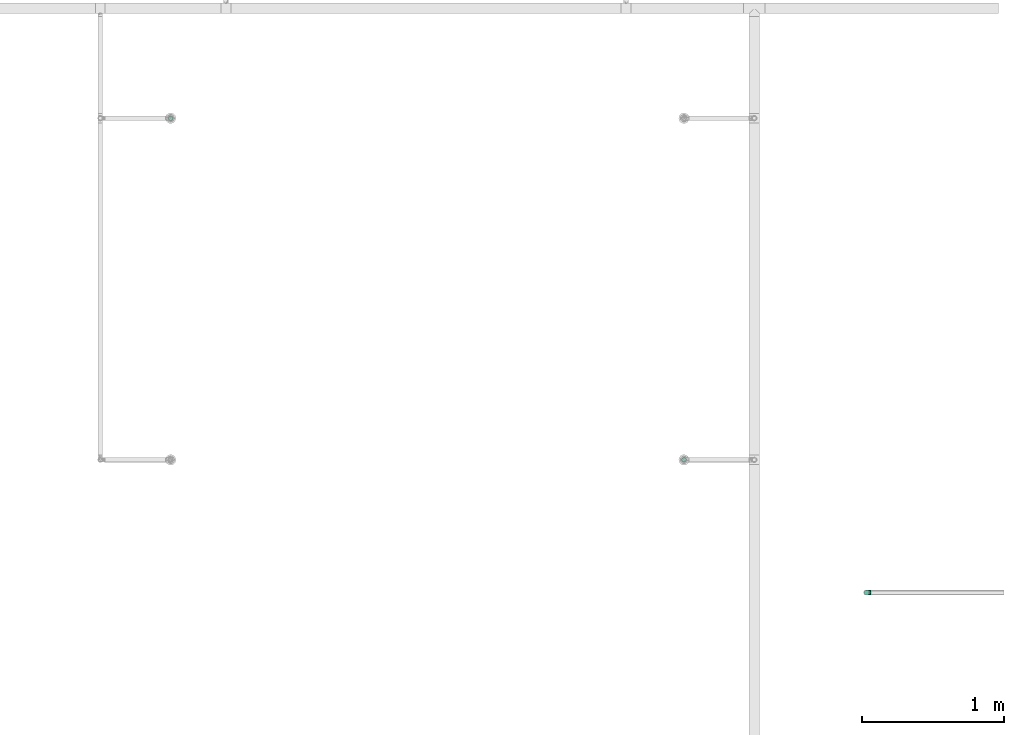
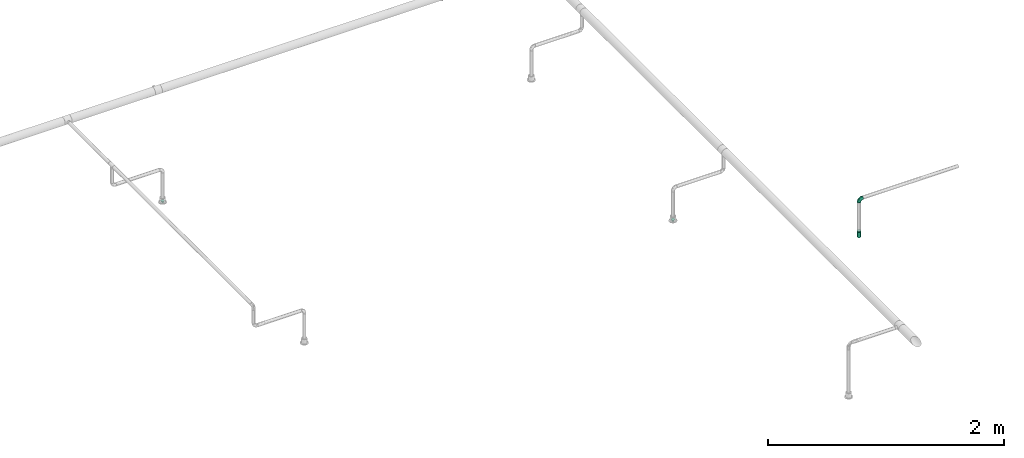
# One storey, part 79 of 95: 4 flow fittings, 1 flow terminal.
"""IFC2X3 building model written with IfcOpenShell, lengths in millimetres."""

from ifc_helpers import new_model, entity, si_unit, converted_unit, derived_unit, direction, frame, origin_with_axes, place, context, subcontext, project, spatial, open_shell, surface_model, source, transform, mapped, type_object, element, save


model = new_model("IFC2X3")

# Units and contexts
model_context = context("Model", 3, precision=0.01, world=frame((0.0, 4.29681676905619e-09, 0.0)), true_north=direction((4.01073788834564e-13, 1.0)))
plan_context = context("Plan", 3, precision=0.01, world=frame((0.0, 4.29681676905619e-09, 0.0)), true_north=direction((4.01073788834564e-13, 1.0)))
body_context = subcontext(model_context, "Body", "Model", "MODEL_VIEW")
ifc_project = project(units=[converted_unit("PLANEANGLEUNIT", "DEGREE", entity("IfcPositiveLengthMeasure", 0.0174532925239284), si_unit("PLANEANGLEUNIT", "RADIAN"), dimensions=[0, 0, 0, 0, 0, 0, 0]), si_unit("AREAUNIT", "SQUARE_METRE"), si_unit("LENGTHUNIT", "METRE", prefix="MILLI"), si_unit("MASSUNIT", "GRAM", prefix="KILO"), si_unit("POWERUNIT", "WATT"), si_unit("PRESSUREUNIT", "PASCAL"), si_unit("FORCEUNIT", "NEWTON", prefix="KILO"), si_unit("ELECTRICVOLTAGEUNIT", "VOLT"), si_unit("ELECTRICCURRENTUNIT", "AMPERE"), si_unit("THERMODYNAMICTEMPERATUREUNIT", "DEGREE_CELSIUS"), si_unit("TIMEUNIT", "SECOND"), si_unit("VOLUMEUNIT", "CUBIC_METRE"), derived_unit("LINEARVELOCITYUNIT", [(si_unit("LENGTHUNIT", "METRE"), 1), (si_unit("TIMEUNIT", "SECOND"), -1)]), derived_unit("VOLUMETRICFLOWRATEUNIT", [(si_unit("VOLUMEUNIT", "CUBIC_METRE"), 1), (si_unit("TIMEUNIT", "SECOND"), -1)]), derived_unit("THERMALTRANSMITTANCEUNIT", [(si_unit("POWERUNIT", "WATT"), 1), (si_unit("THERMODYNAMICTEMPERATUREUNIT", "KELVIN"), -1), (si_unit("AREAUNIT", "SQUARE_METRE"), -1)]), derived_unit("SOUNDPRESSUREUNIT", [(si_unit("PRESSUREUNIT", "PASCAL"), 1)])], contexts=[model_context, plan_context])

# Site, building, storey
site_placement = place(None, frame((0.0, -4.29681676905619e-09, 0.0), z_axis=(0.0, 0.0, 1.0), x_axis=(1.0, 0.0, 0.0)))
site = spatial("IfcSite", under=ifc_project, at=site_placement, CompositionType="ELEMENT")
building_placement = place(site_placement, frame((0.0, 4.29681676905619e-09, 0.0), z_axis=(0.0, 0.0, 1.0), x_axis=(1.0, 0.0, 0.0)))
building = spatial("IfcBuilding", under=site, at=building_placement, Name="mc-building", CompositionType="ELEMENT")
storey_placement = place(building_placement, frame((0.0, 0.0, 210900.0), z_axis=(0.0, 0.0, 1.0), x_axis=(1.0, 0.0, 0.0)))
storey = spatial("IfcBuildingStorey", under=building, at=storey_placement, Name="Nivå F", CompositionType="ELEMENT", Elevation=210900.0)

# Flow fittings
pipe_fitting_type_1 = type_object("IfcPipeFittingType", Name="magi_pipe_fe_reducer_centric_short_NOR", PredefinedType="TRANSITION")
shared_shape_1 = source(origin_with_axes(), body_context, "Body", "SurfaceModel", [
    surface_model("IfcShellBasedSurfaceModel", [(14.4, 5.35, -9.26647), (14.4, 0.0, -10.7), (14.4, 2.76936, -10.33541), (14.4, 10.33541, -2.76936), (14.4, 7.56604, -7.56604), (14.4, -10.33541, -2.76936), (14.4, 9.26647, -5.35), (14.4, 0.0, 10.7), (14.4, -5.35, -9.26647), (14.4, -2.76936, -10.33541), (14.4, -7.56604, -7.56604), (14.4, -9.26647, -5.35), (14.4, 10.7, 0.0), (14.4, 10.33541, 2.76936), (14.4, 9.26647, 5.35), (14.4, 7.56604, 7.56604), (14.4, 2.76936, 10.33541), (14.4, 5.35, 9.26647), (14.4, -10.33541, 2.76936), (14.4, -7.56604, 7.56604), (14.4, -9.26647, 5.35), (14.4, -10.7, 0.0), (14.4, -2.76936, 10.33541), (14.4, -5.35, 9.26647), (12.4, 2.76936, 10.33541), (12.4, -10.33541, -2.76936), (12.4, 0.0, 10.7), (12.4, 5.35, 9.26647), (12.4, 7.56604, 7.56604), (12.4, 9.26647, 5.35), (12.4, 10.33541, 2.76936), (12.4, -10.33541, 2.76936), (12.4, -2.76936, 10.33541), (12.4, -7.56604, 7.56604), (12.4, -5.35, 9.26647), (12.4, -9.26647, 5.35), (12.4, -10.7, 0.0), (12.4, 10.33541, -2.76936), (12.4, 5.35, -9.26647), (12.4, 9.26647, -5.35), (12.4, 7.56604, -7.56604), (12.4, 2.76936, -10.33541), (12.4, -9.26647, -5.35), (12.4, -5.35, -9.26647), (12.4, -7.56604, -7.56604), (12.4, 0.0, -10.7), (12.4, -2.76936, -10.33541), (12.4, 10.7, 0.0), (-2.0, 11.9501, 11.9501), (-2.0, 0.0, 16.9), (-2.0, 4.37404, 16.32415), (-2.0, 8.45, 14.63583), (-2.0, 14.63583, 8.45), (-2.0, 16.32415, 4.37404), (-2.0, -16.32415, 4.37404), (-2.0, -8.45, 14.63583), (-2.0, -14.63583, 8.45), (-2.0, -11.9501, 11.9501), (-2.0, -4.37404, 16.32415), (-2.0, -16.32415, -4.37404), (-2.0, -16.9, 0.0), (-2.0, -8.45, -14.63583), (-2.0, 16.32415, -4.37404), (-2.0, 11.9501, -11.9501), (-2.0, 14.63583, -8.45), (-2.0, 8.45, -14.63583), (-2.0, 4.37404, -16.32415), (-2.0, 0.0, -16.9), (-2.0, -11.9501, -11.9501), (-2.0, -14.63583, -8.45), (-2.0, -4.37404, -16.32415), (-2.0, 16.9, 0.0), (0.0, 4.37404, -16.32415), (0.0, 8.45, -14.63583), (0.0, 11.9501, -11.9501), (0.0, 0.0, -16.9), (0.0, 16.32415, -4.37404), (0.0, 16.32415, 4.37404), (0.0, 14.63583, -8.45), (0.0, -8.45, -14.63583), (0.0, -4.37404, -16.32415), (0.0, -11.9501, -11.9501), (0.0, -16.32415, -4.37404), (0.0, -14.63583, -8.45), (0.0, -16.32415, 4.37404), (0.0, 16.9, 0.0), (0.0, 14.63583, 8.45), (0.0, 11.9501, 11.9501), (0.0, 4.37404, 16.32415), (0.0, 8.45, 14.63583), (0.0, 0.0, 16.9), (0.0, -14.63583, 8.45), (0.0, -16.9, 0.0), (0.0, -8.45, 14.63583), (0.0, -11.9501, 11.9501), (0.0, -4.37404, 16.32415), (12.4, 9.3625, -2.31662), (0.0, 14.42505, -5.97505), (0.0, 15.66253, -2.98753), (12.4, -6.6875, -6.94985), (0.0, -13.18758, -8.96258), (0.0, 2.98753, -15.66253), (12.4, 0.0, -9.26647), (12.4, 6.6875, -6.94985), (0.0, 8.96258, -13.18758), (12.4, -9.3625, -2.31662), (0.0, -15.66253, -2.98753), (0.0, -14.42505, -5.97505), (0.0, 5.97505, -14.42505), (0.0, -2.98753, -15.66253), (0.0, -8.96258, -13.18758), (0.0, 13.18758, -8.96258), (12.4, 8.025, -4.63324), (12.4, -2.675, -9.26647), (12.4, 2.675, -9.26647), (0.0, -5.97505, -14.42505), (12.4, -8.025, -4.63324), (12.4, -9.3625, 2.31662), (0.0, -14.42505, 5.97505), (0.0, -15.66253, 2.98753), (12.4, 6.6875, 6.94985), (0.0, 13.18758, 8.96258), (0.0, -2.98753, 15.66253), (12.4, 0.0, 9.26647), (12.4, -6.6875, 6.94985), (0.0, -8.96258, 13.18758), (12.4, 9.3625, 2.31662), (0.0, 15.66253, 2.98753), (0.0, 14.42505, 5.97505), (0.0, -5.97505, 14.42505), (0.0, 2.98753, 15.66253), (0.0, 8.96258, 13.18758), (0.0, -13.18758, 8.96258), (12.4, -8.025, 4.63324), (12.4, 2.675, 9.26647), (12.4, -2.675, 9.26647), (0.0, 5.97505, 14.42505), (12.4, 8.025, 4.63324)], [open_shell([[[0, 1, 2]], [[3, 0, 4]], [[5, 0, 3]], [[3, 4, 6]], [[7, 5, 3]], [[1, 8, 9]], [[1, 0, 8]], [[10, 5, 11]], [[5, 10, 8]], [[0, 5, 8]], [[3, 12, 13]], [[13, 14, 15]], [[13, 15, 16]], [[7, 3, 16]], [[16, 15, 17]], [[7, 18, 5]], [[18, 19, 20]], [[21, 5, 18]], [[19, 22, 23]], [[22, 19, 18]], [[7, 22, 18]], [[13, 16, 3]], [[24, 25, 26]], [[27, 25, 24]], [[28, 29, 30]], [[28, 25, 27]], [[31, 26, 25]], [[32, 33, 34]], [[33, 32, 31]], [[33, 31, 35]], [[32, 26, 31]], [[31, 25, 36]], [[30, 37, 28]], [[25, 28, 37]], [[38, 37, 39]], [[37, 38, 25]], [[38, 39, 40]], [[41, 25, 38]], [[42, 43, 44]], [[43, 42, 25]], [[43, 45, 46]], [[43, 25, 41]], [[41, 45, 43]], [[37, 30, 47]], [[25, 5, 36]], [[42, 11, 25]], [[8, 44, 43]], [[42, 44, 10]], [[9, 43, 46]], [[25, 11, 5]], [[5, 21, 36]], [[9, 8, 43]], [[10, 44, 8]], [[10, 11, 42]], [[1, 9, 46]], [[46, 45, 1]], [[41, 2, 45]], [[38, 0, 41]], [[6, 40, 39]], [[38, 40, 4]], [[3, 39, 37]], [[38, 4, 0]], [[0, 2, 41]], [[12, 3, 37]], [[6, 39, 3]], [[6, 4, 40]], [[47, 12, 37]], [[45, 2, 1]], [[30, 13, 47]], [[29, 14, 30]], [[17, 28, 27]], [[29, 28, 15]], [[16, 27, 24]], [[30, 14, 13]], [[13, 12, 47]], [[16, 17, 27]], [[15, 28, 17]], [[15, 14, 29]], [[7, 16, 24]], [[24, 26, 7]], [[32, 22, 26]], [[34, 23, 32]], [[20, 33, 35]], [[34, 33, 19]], [[18, 35, 31]], [[34, 19, 23]], [[23, 22, 32]], [[21, 18, 31]], [[20, 35, 18]], [[20, 19, 33]], [[36, 21, 31]], [[26, 22, 7]], [[48, 49, 50]], [[48, 50, 51]], [[48, 52, 53]], [[48, 53, 49]], [[49, 53, 54]], [[55, 56, 57]], [[55, 58, 49]], [[56, 55, 49]], [[49, 54, 56]], [[54, 59, 60]], [[54, 53, 61]], [[53, 62, 63]], [[63, 62, 64]], [[63, 65, 66]], [[61, 53, 63]], [[67, 63, 66]], [[59, 68, 69]], [[68, 59, 61]], [[61, 67, 70]], [[59, 54, 61]], [[63, 67, 61]], [[53, 71, 62]], [[72, 73, 74]], [[75, 72, 74]], [[74, 76, 77]], [[76, 74, 78]], [[74, 77, 79]], [[75, 79, 80]], [[75, 74, 79]], [[81, 82, 83]], [[82, 81, 79]], [[79, 84, 82]], [[77, 76, 85]], [[77, 86, 87]], [[77, 87, 88]], [[88, 84, 79]], [[88, 87, 89]], [[84, 88, 90]], [[90, 91, 84]], [[92, 82, 84]], [[91, 93, 94]], [[91, 90, 93]], [[93, 90, 95]], [[79, 77, 88]], [[59, 82, 60]], [[69, 83, 59]], [[79, 68, 61]], [[69, 68, 81]], [[80, 61, 70]], [[59, 83, 82]], [[82, 92, 60]], [[80, 79, 61]], [[81, 68, 79]], [[81, 83, 69]], [[75, 80, 70]], [[70, 67, 75]], [[66, 72, 67]], [[65, 73, 66]], [[78, 63, 64]], [[65, 63, 74]], [[76, 64, 62]], [[65, 74, 73]], [[73, 72, 66]], [[85, 76, 62]], [[78, 64, 76]], [[78, 74, 63]], [[71, 85, 62]], [[67, 72, 75]], [[53, 77, 71]], [[52, 86, 53]], [[89, 48, 51]], [[52, 48, 87]], [[88, 51, 50]], [[53, 86, 77]], [[77, 85, 71]], [[88, 89, 51]], [[87, 48, 89]], [[87, 86, 52]], [[90, 88, 50]], [[50, 49, 90]], [[58, 95, 49]], [[55, 93, 58]], [[91, 57, 56]], [[55, 57, 94]], [[84, 56, 54]], [[55, 94, 93]], [[93, 95, 58]], [[92, 84, 54]], [[91, 56, 84]], [[91, 94, 57]], [[60, 92, 54]], [[49, 95, 90]], [[27, 34, 47]], [[47, 34, 43]], [[43, 38, 47]], [[43, 34, 36]], [[90, 87, 94]], [[92, 94, 87]], [[87, 74, 92]], [[75, 92, 74]], [[81, 92, 75]], [[74, 87, 85]], [[96, 97, 98]], [[81, 99, 100]], [[101, 102, 75]], [[98, 85, 47]], [[74, 103, 104]], [[104, 103, 38]], [[105, 106, 107]], [[38, 108, 104]], [[102, 109, 75]], [[110, 99, 81]], [[47, 96, 98]], [[103, 111, 112]], [[109, 102, 113]], [[36, 92, 106]], [[102, 101, 114]], [[110, 115, 43]], [[96, 112, 97]], [[107, 116, 105]], [[36, 106, 105]], [[113, 115, 109]], [[43, 115, 113]], [[116, 107, 100]], [[108, 38, 114]], [[111, 103, 74]], [[111, 97, 112]], [[99, 110, 43]], [[116, 100, 99]], [[101, 108, 114]], [[117, 118, 119]], [[87, 120, 121]], [[122, 123, 90]], [[119, 92, 36]], [[94, 124, 125]], [[125, 124, 34]], [[126, 127, 128]], [[34, 129, 125]], [[123, 130, 90]], [[131, 120, 87]], [[36, 117, 119]], [[124, 132, 133]], [[130, 123, 134]], [[47, 85, 127]], [[123, 122, 135]], [[131, 136, 27]], [[117, 133, 118]], [[128, 137, 126]], [[47, 127, 126]], [[134, 136, 130]], [[27, 136, 134]], [[137, 128, 121]], [[129, 34, 135]], [[132, 124, 94]], [[132, 118, 133]], [[120, 131, 27]], [[137, 121, 120]], [[122, 129, 135]]])]),
])
for number, where, z_axis, x_axis, name in (
    (1, (530497.57166, 461000.75899, 3769.25200000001), (0.0, -1.0, 0.0), (0.0, 0.0, -1.0), "magi_pipe_fe_reducer_centric_short_NOR"),
    (2, (534107.98071, 458598.02191, 3769.25200000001), (0.0, -1.0, 0.0), (0.0, 0.0, -1.0), "magi_pipe_fe_reducer_centric_short_NOR"),
    (3, (535390.32393, 457664.6514, 3769.25200000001), (0.0, -1.0, 0.0), (0.0, 0.0, -1.0), "magi_pipe_fe_reducer_centric_short_NOR"),
):
    element("IfcFlowFitting", number, at=place(storey_placement, frame(where, z_axis=z_axis, x_axis=x_axis)), inside=storey, type_object=pipe_fitting_type_1, Name=name, context=body_context, shape_type="MappedRepresentation", body=[
        mapped(shared_shape_1, transform((0.0, 0.0, 0.0), scale=1.0)),
    ])
pipe_fitting_type_2 = type_object("IfcPipeFittingType", Name="magi_pipe_fe_elbow_short_001", PredefinedType="BEND")
shared_shape_2 = source(origin_with_axes(), body_context, "Body", "SurfaceModel", [
    surface_model("IfcShellBasedSurfaceModel", [(-33.8, 8.45, -14.63583), (-33.8, 4.37404, -16.32415), (-33.8, 11.9501, -11.9501), (-33.8, -11.9501, -11.9501), (-33.8, -14.63583, -8.45), (-33.8, -8.45, -14.63583), (-33.8, 0.0, -16.9), (-33.8, -4.37404, -16.32415), (-33.8, -4.37404, 16.32415), (-33.8, 0.0, 16.9), (-33.8, -8.45, 14.63583), (-33.8, 16.32415, -4.37404), (-33.8, 14.63583, -8.45), (-33.8, -16.32415, -4.37404), (-33.8, -16.9, 0.0), (-33.8, -16.32415, 4.37404), (-33.8, 11.9501, 11.9501), (-33.8, 14.63583, 8.45), (-33.8, 16.32415, 4.37404), (-33.8, 4.37404, 16.32415), (-33.8, 8.45, 14.63583), (-33.8, -14.63583, 8.45), (-33.8, -11.9501, 11.9501), (-33.8, 16.9, 0.0), (-11.9501, 33.8, -11.9501), (0.0, 33.8, -16.9), (-4.37404, 33.8, -16.32415), (-8.45, 33.8, -14.63583), (-14.63583, 33.8, -8.45), (-16.32415, 33.8, -4.37404), (14.63583, 33.8, -8.45), (8.45, 33.8, 14.63583), (16.32415, 33.8, -4.37404), (8.45, 33.8, -14.63583), (11.9501, 33.8, -11.9501), (4.37404, 33.8, -16.32415), (16.32415, 33.8, 4.37404), (16.9, 33.8, 0.0), (-11.9501, 33.8, 11.9501), (-16.32415, 33.8, 4.37404), (-14.63583, 33.8, 8.45), (-8.45, 33.8, 14.63583), (-4.37404, 33.8, 16.32415), (11.9501, 33.8, 11.9501), (14.63583, 33.8, 8.45), (0.0, 33.8, 16.9), (4.37404, 33.8, 16.32415), (-16.9, 33.8, 0.0), (-24.79389, -13.12945, 9.48721), (-22.19287, -9.75018, 12.59315), (-24.09897, -14.97035, 0.0), (-14.93934, -10.76256, 8.5297), (-22.46095, -14.75051, 5.27077), (14.75051, 22.46094, 5.27077), (11.9251, 13.23888, 4.33236), (13.04069, 14.39795, 0.0), (7.71387, 13.68847, 11.55891), (9.75018, 22.19287, 12.59315), (4.10169, 13.0571, 14.04018), (-24.84007, -6.39063, 15.2048), (-25.81779, -2.23879, 16.61097), (-23.66549, 2.59054, 16.87119), (-26.50418, 14.06512, 11.08152), (-24.21253, 17.66365, 7.72657), (-29.58514, 15.86957, 7.00283), (-6.17382, -7.5455, 0.0), (-13.23888, -11.9251, 4.33236), (-14.39795, -13.04069, 0.0), (-17.81434, 18.87373, 11.97104), (-6.30846, 29.15138, 15.82987), (-2.31622, 25.28002, 16.85849), (-29.23923, 10.23435, 13.77053), (-1.45439, -2.85688, 7.61475), (-0.28326, 0.34872, 10.09509), (-5.74484, -4.04709, 10.4122), (-4.41137, 11.31918, 16.59407), (-8.39727, 3.10034, 15.7812), (-1.72649, 9.1306, 15.53089), (-17.39909, 24.75344, 7.64977), (-26.19233, 20.0512, 0.0), (-28.14518, 17.29657, 4.25857), (-26.05147, 6.6281, 15.96447), (-5.87354, 16.61944, 16.86968), (-12.51807, 12.51807, 16.48937), (-10.06312, 7.38516, 16.81295), (-3.01882, 3.01882, 13.81718), (-13.0571, -4.10169, 14.04018), (-16.82553, -0.15166, 16.38038), (10.76256, 14.93934, 8.5297), (13.12945, 24.79389, 9.48721), (6.39063, 24.84007, 15.2048), (2.23879, 25.81779, 16.61097), (-13.68847, -7.71387, 11.55891), (14.97035, 24.09897, 0.0), (-7.30894, 22.89991, 16.09489), (-10.67958, 26.17414, 14.008), (-12.78295, 18.26924, 15.06066), (-13.88562, 22.45231, 12.93244), (-18.04944, 15.16501, 14.04434), (-23.11658, 20.08178, 4.02986), (-21.84989, 21.84989, 0.0), (-18.55817, 25.48277, 3.93065), (-13.95142, 26.94732, 11.03289), (-18.57098, 7.23906, 16.59756), (-16.58335, 4.14122, 16.89279), (-17.96666, 11.46709, 15.63151), (-9.84453, 17.54304, 16.18938), (0.15166, 16.82553, 16.38038), (-23.27207, 11.47201, 14.23154), (3.84842, 5.86994, 10.70473), (-8.0212, -7.54413, 7.93275), (1.00345, -2.19508, 4.57414), (5.13203, 3.01004, 5.90201), (5.24161, 1.7543, 2.53265), (8.70457, 7.04947, 3.99182), (-20.0512, 26.19233, 0.0), (8.4852, 8.76699, 7.09296), (-4.55488, -6.72064, 4.90681), (2.05031, -2.05031, 0.0), (7.5455, 6.17382, 0.0), (-26.75399, 2.1369, -16.845), (-14.61995, 24.73803, -11.27736), (-28.45274, -13.45335, -9.81895), (-26.00469, 6.63555, -15.96645), (-23.06726, 20.04573, -4.26202), (-13.80647, -4.26506, -14.17873), (-14.67501, -0.21081, -16.07388), (-6.7902, -0.2828, -13.8478), (-24.53586, 11.08096, -14.13417), (-26.72048, 14.00837, -11.05776), (10.0967, 24.44989, -12.75976), (5.83237, 21.40218, -15.03047), (6.66249, 28.54238, -15.38093), (-20.38182, 15.48705, -12.74596), (12.53268, 21.23441, -9.15363), (12.54494, 15.67504, -5.54878), (9.7522, 12.89279, -8.66343), (-15.65186, 19.64213, -13.01327), (-12.03528, 20.66498, -14.67665), (-15.61907, 15.61906, -14.83879), (-25.56551, -15.26206, 0.0), (-24.65452, -15.12934, -5.50955), (13.45335, 28.45274, -9.81895), (15.12934, 24.65452, -5.50955), (-7.35442, -8.31014, -5.65563), (-15.67504, -12.54494, -5.54878), (-24.44989, -10.0967, -12.75976), (0.16522, 0.41303, -9.71728), (-5.70658, -5.33066, -8.89288), (-5.13869, -2.37198, -11.53565), (-21.23441, -12.53268, -9.15363), (0.71146, 7.93863, -14.09382), (0.21081, 14.67501, -16.07388), (3.49291, 14.42772, -14.76381), (-24.89911, -2.13088, -16.591), (-28.54238, -6.66249, -15.38093), (-18.44386, -7.71663, -13.26957), (2.13088, 24.89911, -16.591), (-28.64342, 17.44413, -2.89318), (1.70017, -1.28722, -5.09504), (-16.57067, 26.81947, -7.36596), (-17.69055, 27.4263, -3.76405), (-12.89279, -9.7522, -8.66343), (-5.96611, 5.96611, -15.95814), (-20.53709, 20.09345, -8.28985), (-2.1369, 26.75399, -16.845), (-6.89872, 24.58781, -16.02578), (-10.60739, 26.53157, -13.98044), (-21.40218, -5.83237, -15.03047), (2.93192, 5.89627, -11.55917), (6.89393, 12.61842, -11.82233), (5.58056, 5.95325, -8.79455), (-3.99512, 18.61798, -16.89635), (8.31014, 7.35442, -5.65563), (-9.1383, 9.86148, -16.89041), (-9.99983, 16.02119, -16.39699), (-16.68576, 9.78031, -16.34199), (-27.01915, 16.61158, -7.12979), (15.26206, 25.56551, 0.0), (-18.61798, 3.99512, -16.89635), (-19.37495, 27.82495, 0.0), (-12.61842, -6.89393, -11.82233), (-18.84705, 19.14018, -10.96545)], [open_shell([[[0, 1, 2]], [[3, 4, 5]], [[6, 7, 5]], [[8, 9, 10]], [[1, 6, 2]], [[11, 12, 2]], [[4, 2, 6]], [[2, 13, 10]], [[5, 4, 6]], [[2, 4, 13]], [[14, 15, 13]], [[11, 2, 16]], [[11, 17, 18]], [[11, 16, 17]], [[19, 20, 16]], [[16, 2, 10]], [[19, 16, 10]], [[21, 22, 15]], [[22, 13, 15]], [[22, 10, 13]], [[10, 9, 19]], [[11, 18, 23]], [[24, 25, 26]], [[24, 26, 27]], [[24, 28, 29]], [[25, 24, 30]], [[31, 32, 24]], [[33, 30, 34]], [[33, 35, 25]], [[25, 30, 33]], [[32, 30, 24]], [[32, 36, 37]], [[38, 24, 29]], [[39, 40, 29]], [[40, 38, 29]], [[38, 41, 42]], [[38, 31, 24]], [[31, 38, 42]], [[36, 43, 44]], [[36, 32, 43]], [[31, 45, 46]], [[32, 31, 43]], [[42, 45, 31]], [[39, 29, 47]], [[22, 48, 49]], [[15, 14, 50]], [[51, 48, 52]], [[53, 54, 55]], [[48, 22, 21]], [[15, 52, 21]], [[56, 57, 58]], [[49, 10, 22]], [[49, 59, 10]], [[9, 60, 61]], [[62, 63, 64]], [[65, 66, 67]], [[57, 43, 31]], [[62, 68, 63]], [[42, 69, 70]], [[20, 71, 16]], [[8, 60, 9]], [[72, 73, 74]], [[75, 76, 77]], [[16, 62, 17]], [[40, 39, 78]], [[79, 23, 80]], [[64, 18, 17]], [[9, 61, 19]], [[19, 81, 20]], [[82, 83, 84]], [[74, 85, 86]], [[59, 86, 87]], [[88, 89, 57]], [[90, 31, 46]], [[44, 53, 36]], [[46, 45, 91]], [[54, 53, 88]], [[44, 89, 53]], [[92, 86, 49]], [[89, 44, 43]], [[10, 59, 8]], [[53, 55, 93]], [[93, 36, 53]], [[66, 52, 67]], [[94, 82, 70]], [[95, 96, 94]], [[97, 98, 96]], [[79, 99, 100]], [[41, 38, 95]], [[101, 100, 99]], [[68, 78, 63]], [[42, 41, 69]], [[23, 18, 80]], [[95, 94, 69]], [[78, 101, 99]], [[38, 102, 95]], [[70, 45, 42]], [[97, 95, 102]], [[15, 50, 52]], [[90, 57, 31]], [[57, 90, 58]], [[81, 19, 61]], [[103, 104, 84]], [[105, 81, 103]], [[38, 40, 102]], [[106, 96, 83]], [[94, 106, 82]], [[91, 70, 107]], [[71, 62, 16]], [[62, 108, 98]], [[86, 59, 49]], [[67, 52, 50]], [[60, 59, 87]], [[92, 49, 51]], [[86, 85, 76]], [[91, 90, 46]], [[37, 36, 93]], [[107, 77, 58]], [[107, 58, 90]], [[58, 85, 109]], [[110, 74, 92]], [[72, 74, 110]], [[66, 51, 52]], [[72, 111, 112]], [[113, 114, 112]], [[56, 88, 57]], [[52, 48, 21]], [[49, 48, 51]], [[57, 89, 43]], [[53, 89, 88]], [[103, 81, 61]], [[71, 81, 108]], [[18, 64, 80]], [[63, 78, 99]], [[47, 115, 101]], [[101, 115, 100]], [[40, 78, 102]], [[68, 102, 78]], [[97, 96, 95]], [[105, 98, 108]], [[103, 84, 83]], [[107, 70, 82]], [[76, 84, 87]], [[82, 84, 75]], [[70, 91, 45]], [[90, 91, 107]], [[59, 60, 8]], [[61, 60, 87]], [[73, 85, 74]], [[109, 112, 116]], [[103, 61, 104]], [[105, 103, 83]], [[96, 105, 83]], [[81, 105, 108]], [[96, 98, 105]], [[62, 98, 68]], [[61, 87, 104]], [[87, 84, 104]], [[86, 76, 87]], [[77, 76, 85]], [[58, 77, 85]], [[75, 77, 107]], [[82, 75, 107]], [[76, 75, 84]], [[81, 71, 20]], [[62, 71, 108]], [[95, 69, 41]], [[70, 69, 94]], [[62, 64, 17]], [[80, 63, 99]], [[63, 80, 64]], [[80, 99, 79]], [[66, 65, 117]], [[110, 66, 117]], [[112, 114, 116]], [[118, 117, 65]], [[110, 92, 51]], [[112, 111, 113]], [[119, 55, 54]], [[74, 86, 92]], [[58, 109, 56]], [[116, 56, 109]], [[66, 110, 51]], [[72, 110, 117]], [[111, 72, 117]], [[73, 112, 109]], [[117, 118, 111]], [[113, 111, 118]], [[118, 119, 113]], [[114, 119, 54]], [[119, 114, 113]], [[116, 54, 88]], [[54, 116, 114]], [[116, 88, 56]], [[112, 73, 72]], [[85, 73, 109]], [[78, 39, 101]], [[47, 101, 39]], [[102, 68, 97]], [[97, 68, 98]], [[82, 106, 83]], [[94, 96, 106]], [[1, 120, 6]], [[28, 24, 121]], [[3, 122, 4]], [[0, 123, 1]], [[100, 124, 79]], [[125, 126, 127]], [[128, 2, 129]], [[130, 131, 132]], [[128, 129, 133]], [[134, 135, 136]], [[137, 138, 139]], [[128, 0, 2]], [[67, 140, 141]], [[134, 142, 143]], [[141, 13, 4]], [[144, 65, 145]], [[146, 3, 5]], [[147, 148, 149]], [[145, 141, 150]], [[151, 152, 153]], [[154, 7, 6]], [[5, 155, 146]], [[150, 146, 156]], [[155, 5, 7]], [[143, 135, 134]], [[35, 157, 25]], [[23, 79, 158]], [[148, 159, 144]], [[160, 161, 29]], [[145, 162, 144]], [[163, 152, 151]], [[29, 28, 160]], [[121, 164, 160]], [[33, 34, 130]], [[25, 165, 26]], [[26, 165, 166]], [[142, 34, 30]], [[24, 27, 167]], [[124, 161, 164]], [[157, 35, 132]], [[155, 154, 168]], [[123, 0, 128]], [[169, 170, 171]], [[172, 157, 152]], [[26, 166, 27]], [[132, 35, 33]], [[142, 130, 34]], [[168, 154, 126]], [[136, 135, 173]], [[133, 137, 139]], [[2, 12, 129]], [[170, 131, 130]], [[30, 32, 143]], [[172, 174, 175]], [[176, 123, 128]], [[158, 177, 11]], [[135, 55, 119]], [[167, 27, 166]], [[175, 166, 172]], [[137, 167, 138]], [[122, 141, 4]], [[140, 14, 13]], [[32, 37, 178]], [[170, 130, 134]], [[152, 157, 131]], [[165, 157, 172]], [[153, 170, 151]], [[152, 163, 174]], [[168, 125, 156]], [[122, 146, 150]], [[120, 154, 6]], [[179, 174, 126]], [[179, 126, 154]], [[126, 163, 127]], [[162, 145, 150]], [[140, 13, 141]], [[32, 178, 143]], [[55, 143, 178]], [[177, 129, 12]], [[128, 133, 139]], [[176, 128, 139]], [[120, 123, 179]], [[121, 160, 28]], [[161, 100, 180]], [[166, 175, 138]], [[121, 24, 167]], [[161, 47, 29]], [[79, 124, 158]], [[124, 164, 177]], [[161, 124, 100]], [[136, 171, 170]], [[127, 163, 151]], [[147, 171, 159]], [[148, 144, 162]], [[127, 151, 169]], [[127, 181, 125]], [[129, 177, 164]], [[12, 11, 177]], [[159, 65, 144]], [[67, 141, 145]], [[143, 55, 135]], [[135, 119, 173]], [[123, 120, 1]], [[154, 120, 179]], [[157, 165, 25]], [[166, 165, 172]], [[172, 152, 174]], [[176, 139, 175]], [[126, 174, 163]], [[176, 174, 179]], [[174, 176, 175]], [[123, 176, 179]], [[150, 181, 162]], [[127, 149, 181]], [[181, 148, 162]], [[159, 148, 147]], [[171, 136, 173]], [[170, 134, 136]], [[159, 171, 173]], [[171, 147, 169]], [[169, 147, 149]], [[151, 170, 169]], [[164, 182, 129]], [[182, 121, 137]], [[181, 149, 148]], [[169, 149, 127]], [[182, 137, 133]], [[167, 137, 121]], [[166, 138, 167]], [[175, 139, 138]], [[129, 182, 133]], [[121, 182, 164]], [[161, 160, 164]], [[47, 161, 180]], [[177, 158, 124]], [[23, 158, 11]], [[130, 132, 33]], [[157, 132, 131]], [[143, 142, 30]], [[130, 142, 134]], [[154, 155, 7]], [[146, 155, 168]], [[146, 122, 3]], [[141, 122, 150]], [[152, 131, 153]], [[159, 119, 118]], [[67, 145, 65]], [[170, 153, 131]], [[119, 159, 173]], [[159, 118, 65]], [[156, 125, 181]], [[126, 125, 168]], [[150, 156, 181]], [[168, 156, 146]]])]),
])
flow_fitting_placement = place(storey_placement, frame((535390.32393, 457664.6514, 4100.0), z_axis=(0.0, -1.0, 0.0), x_axis=(-1.0, 0.0, 0.0)))
element("IfcFlowFitting", 4, at=flow_fitting_placement, inside=storey, type_object=pipe_fitting_type_2, Name="magi_pipe_fe_elbow_short_001", context=body_context, shape_type="MappedRepresentation", body=[
    mapped(shared_shape_2, transform((0.0, 0.0, 0.0), scale=1.0)),
])

# Flow terminal
fire_suppression_terminal_type = type_object("IfcFireSuppressionTerminalType", Name="SP-15-K80-68DGR-STD-HIMLING", PredefinedType="NOTDEFINED")
shared_shape_3 = source(origin_with_axes(), body_context, "Body", "SurfaceModel", [
    surface_model("IfcShellBasedSurfaceModel", [(4.1411, -15.45481, 53.0), (8.0, -13.85641, 53.0), (11.31371, -11.31371, 53.0), (-8.0, -13.85641, 53.0), (15.45481, -4.1411, 53.0), (16.0, 0.0, 53.0), (13.85641, -8.0, 53.0), (0.0, -16.0, 53.0), (-4.1411, -15.45481, 53.0), (-13.85641, -8.0, 53.0), (-11.31371, -11.31371, 53.0), (-15.45481, -4.1411, 53.0), (15.45481, 4.1411, 53.0), (13.85641, 8.0, 53.0), (11.31371, 11.31371, 53.0), (-4.1411, 15.45481, 53.0), (8.0, 13.85641, 53.0), (4.1411, 15.45481, 53.0), (0.0, 16.0, 53.0), (-13.85641, 8.0, 53.0), (-15.45481, 4.1411, 53.0), (-16.0, 0.0, 53.0), (-11.31371, 11.31371, 53.0), (-8.0, 13.85641, 53.0), (0.0, 16.0, 0.0), (4.1411, 15.45481, 0.0), (8.0, 13.85641, 0.0), (-4.1411, 15.45481, 0.0), (11.31371, 11.31371, 0.0), (13.85641, 8.0, 0.0), (15.45481, 4.1411, 0.0), (-15.45481, -4.1411, 0.0), (-11.31371, 11.31371, 0.0), (-8.0, 13.85641, 0.0), (-13.85641, 8.0, 0.0), (-15.45481, 4.1411, 0.0), (-16.0, 0.0, 0.0), (4.1411, -15.45481, 0.0), (16.0, 0.0, 0.0), (15.45481, -4.1411, 0.0), (13.85641, -8.0, 0.0), (11.31371, -11.31371, 0.0), (8.0, -13.85641, 0.0), (-8.0, -13.85641, 0.0), (-13.85641, -8.0, 0.0), (-11.31371, -11.31371, 0.0), (0.0, -16.0, 0.0), (-4.1411, -15.45481, 0.0)], [open_shell([[[0, 1, 2]], [[3, 0, 2]], [[4, 5, 2]], [[4, 2, 6]], [[3, 2, 5]], [[7, 3, 8]], [[7, 0, 3]], [[3, 9, 10]], [[9, 3, 11]], [[5, 11, 3]], [[5, 12, 11]], [[12, 13, 14]], [[15, 12, 14]], [[16, 17, 18]], [[14, 16, 15]], [[18, 15, 16]], [[11, 19, 20]], [[21, 11, 20]], [[22, 15, 23]], [[15, 22, 19]], [[19, 11, 15]], [[11, 12, 15]], [[24, 25, 26]], [[27, 24, 26]], [[28, 29, 30]], [[27, 26, 28]], [[27, 28, 31]], [[27, 32, 33]], [[32, 27, 34]], [[34, 31, 35]], [[31, 34, 27]], [[35, 31, 36]], [[28, 30, 31]], [[37, 38, 39]], [[37, 39, 40]], [[41, 42, 37]], [[41, 37, 40]], [[38, 37, 43]], [[44, 43, 45]], [[43, 44, 31]], [[43, 46, 47]], [[43, 31, 38]], [[37, 46, 43]], [[38, 31, 30]], [[11, 31, 44]], [[45, 9, 44]], [[3, 43, 47]], [[45, 43, 10]], [[8, 47, 46]], [[31, 21, 36]], [[31, 11, 21]], [[44, 9, 11]], [[45, 10, 9]], [[3, 10, 43]], [[47, 8, 3]], [[46, 7, 8]], [[0, 37, 42]], [[41, 1, 42]], [[6, 40, 39]], [[41, 40, 2]], [[4, 39, 38]], [[37, 0, 7]], [[42, 1, 0]], [[41, 2, 1]], [[40, 6, 2]], [[4, 6, 39]], [[38, 5, 4]], [[37, 7, 46]], [[12, 38, 30]], [[13, 30, 29]], [[16, 26, 25]], [[17, 25, 24]], [[30, 13, 12]], [[12, 5, 38]], [[28, 14, 13]], [[28, 26, 14]], [[14, 26, 16]], [[25, 17, 16]], [[28, 13, 29]], [[24, 18, 17]], [[15, 27, 33]], [[32, 23, 33]], [[19, 34, 35]], [[32, 34, 22]], [[20, 35, 36]], [[27, 15, 18]], [[33, 23, 15]], [[32, 22, 23]], [[34, 19, 22]], [[20, 19, 35]], [[36, 21, 20]], [[27, 18, 24]]])]),
])
flow_terminal_placement = place(storey_placement, frame((535390.32393, 457664.6514, 3759.89999999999), z_axis=(0.0, 0.0, -1.0), x_axis=(-1.0, 0.0, 0.0)))
element("IfcFlowTerminal", 5, at=flow_terminal_placement, inside=storey, type_object=fire_suppression_terminal_type, Name="SP-15-K80-68DGR-STD-HIMLING", context=body_context, shape_type="MappedRepresentation", body=[
    mapped(shared_shape_3, transform((0.0, 0.0, 0.0), scale=1.0)),
])

save(model, "model.ifc")
